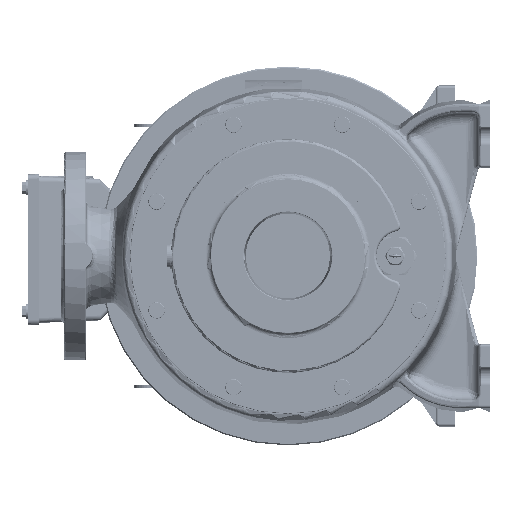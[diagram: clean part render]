
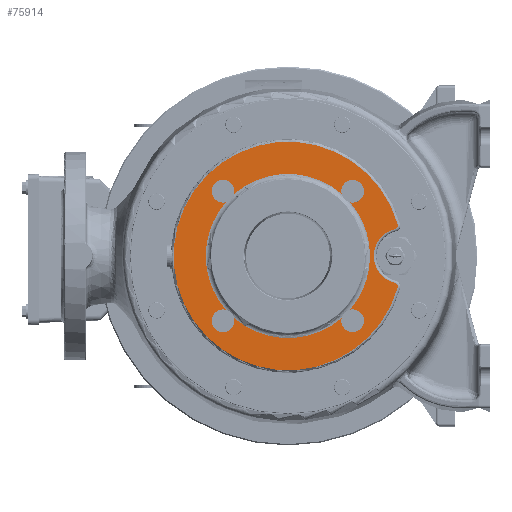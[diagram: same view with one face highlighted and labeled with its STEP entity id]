
A CAD part, left-side view. The second image highlights one B-rep face of the part: STEP entity #75914.
In plain terms, the highlighted planar face has unit normal (-1, 0, 0).
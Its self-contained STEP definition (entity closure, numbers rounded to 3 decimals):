
#64887=CARTESIAN_POINT('',(6.,0.,0.));
#64888=DIRECTION('',(1.,0.,0.));
#64889=DIRECTION('',(0.,-0.961,-0.278));
#64890=AXIS2_PLACEMENT_3D('',#64887,#64888,#64889);
#64892=CARTESIAN_POINT('',(6.,-84.063,24.285));
#64893=DIRECTION('',(1.,0.,0.));
#64894=DIRECTION('',(0.,-0.961,0.278));
#64895=AXIS2_PLACEMENT_3D('',#64892,#64893,#64894);
#64897=CARTESIAN_POINT('',(6.,-90.,0.));
#64898=DIRECTION('',(-1.,0.,0.));
#64899=DIRECTION('',(0.,0.238,0.971));
#64900=AXIS2_PLACEMENT_3D('',#64897,#64898,#64899);
#64902=CARTESIAN_POINT('',(6.,-84.063,-24.285));
#64903=DIRECTION('',(1.,0.,0.));
#64904=DIRECTION('',(0.,-0.238,0.971));
#64905=AXIS2_PLACEMENT_3D('',#64902,#64903,#64904);
#64907=CARTESIAN_POINT('',(6.,51.265,-51.265));
#64908=DIRECTION('',(1.,0.,0.));
#64909=DIRECTION('',(0.,1.,0.));
#64910=AXIS2_PLACEMENT_3D('',#64907,#64908,#64909);
#64912=CARTESIAN_POINT('',(6.,51.265,-51.265));
#64913=DIRECTION('',(1.,0.,0.));
#64914=DIRECTION('',(0.,-1.,0.));
#64915=AXIS2_PLACEMENT_3D('',#64912,#64913,#64914);
#64917=CARTESIAN_POINT('',(6.,51.265,-51.265));
#64918=DIRECTION('',(1.,0.,0.));
#64919=DIRECTION('',(0.,-0.973,0.233));
#64920=AXIS2_PLACEMENT_3D('',#64917,#64918,#64919);
#64922=CARTESIAN_POINT('',(6.,-51.265,-51.265));
#64923=DIRECTION('',(1.,0.,0.));
#64924=DIRECTION('',(0.,0.,-1.));
#64925=AXIS2_PLACEMENT_3D('',#64922,#64923,#64924);
#64927=CARTESIAN_POINT('',(6.,-51.265,-51.265));
#64928=DIRECTION('',(1.,0.,0.));
#64929=DIRECTION('',(0.,0.,1.));
#64930=AXIS2_PLACEMENT_3D('',#64927,#64928,#64929);
#64932=CARTESIAN_POINT('',(6.,-51.265,-51.265));
#64933=DIRECTION('',(1.,0.,0.));
#64934=DIRECTION('',(0.,0.233,0.973));
#64935=AXIS2_PLACEMENT_3D('',#64932,#64933,#64934);
#64937=CARTESIAN_POINT('',(6.,-51.265,51.265));
#64938=DIRECTION('',(1.,0.,0.));
#64939=DIRECTION('',(0.,-1.,0.));
#64940=AXIS2_PLACEMENT_3D('',#64937,#64938,#64939);
#64942=CARTESIAN_POINT('',(6.,-51.265,51.265));
#64943=DIRECTION('',(1.,0.,0.));
#64944=DIRECTION('',(0.,1.,0.));
#64945=AXIS2_PLACEMENT_3D('',#64942,#64943,#64944);
#64947=CARTESIAN_POINT('',(6.,-51.265,51.265));
#64948=DIRECTION('',(1.,0.,0.));
#64949=DIRECTION('',(0.,0.973,-0.233));
#64950=AXIS2_PLACEMENT_3D('',#64947,#64948,#64949);
#64952=CARTESIAN_POINT('',(6.,51.265,51.265));
#64953=DIRECTION('',(1.,0.,0.));
#64954=DIRECTION('',(0.,0.,1.));
#64955=AXIS2_PLACEMENT_3D('',#64952,#64953,#64954);
#64957=CARTESIAN_POINT('',(6.,51.265,51.265));
#64958=DIRECTION('',(1.,0.,0.));
#64959=DIRECTION('',(0.,0.,-1.));
#64960=AXIS2_PLACEMENT_3D('',#64957,#64958,#64959);
#64962=CARTESIAN_POINT('',(6.,51.265,51.265));
#64963=DIRECTION('',(1.,0.,0.));
#64964=DIRECTION('',(0.,-0.233,-0.973));
#64965=AXIS2_PLACEMENT_3D('',#64962,#64963,#64964);
#73340=CARTESIAN_POINT('',(6.,0.,0.));
#73341=DIRECTION('',(-1.,0.,0.));
#73342=DIRECTION('',(0.,-0.756,-0.654));
#73343=AXIS2_PLACEMENT_3D('',#73340,#73341,#73342);
#73345=CARTESIAN_POINT('',(6.,-42.513,-49.17));
#73360=CARTESIAN_POINT('',(6.,-49.17,-42.513));
#73362=CARTESIAN_POINT('',(6.,0.,0.));
#73363=DIRECTION('',(-1.,0.,0.));
#73364=DIRECTION('',(0.,0.654,-0.756));
#73365=AXIS2_PLACEMENT_3D('',#73362,#73363,#73364);
#73367=CARTESIAN_POINT('',(6.,49.17,-42.513));
#73382=CARTESIAN_POINT('',(6.,42.513,-49.17));
#73384=CARTESIAN_POINT('',(6.,0.,0.));
#73385=DIRECTION('',(-1.,0.,0.));
#73386=DIRECTION('',(0.,1.,0.));
#73387=AXIS2_PLACEMENT_3D('',#73384,#73385,#73386);
#73409=CARTESIAN_POINT('',(6.,0.,0.));
#73410=DIRECTION('',(1.,0.,0.));
#73411=DIRECTION('',(0.,1.,0.));
#73412=AXIS2_PLACEMENT_3D('',#73409,#73410,#73411);
#73414=CARTESIAN_POINT('',(6.,42.513,49.17));
#73429=CARTESIAN_POINT('',(6.,49.17,42.513));
#73431=CARTESIAN_POINT('',(6.,0.,0.));
#73432=DIRECTION('',(1.,0.,0.));
#73433=DIRECTION('',(0.,0.654,0.756));
#73434=AXIS2_PLACEMENT_3D('',#73431,#73432,#73433);
#73436=CARTESIAN_POINT('',(6.,-49.17,42.513));
#73451=CARTESIAN_POINT('',(6.,-42.513,49.17));
#73453=CARTESIAN_POINT('',(6.,0.,0.));
#73454=DIRECTION('',(1.,0.,0.));
#73455=DIRECTION('',(0.,-0.756,0.654));
#73456=AXIS2_PLACEMENT_3D('',#73453,#73454,#73455);
#73702=CARTESIAN_POINT('',(6.,-86.945,-25.117));
#73703=CARTESIAN_POINT('',(6.,-86.945,25.117));
#73704=VERTEX_POINT('',#73702);
#73705=VERTEX_POINT('',#73703);
#73734=CARTESIAN_POINT('',(6.,-84.775,21.371));
#73735=VERTEX_POINT('',#73734);
#73738=CARTESIAN_POINT('',(6.,-84.775,-21.371));
#73739=VERTEX_POINT('',#73738);
#74024=CARTESIAN_POINT('',(6.,42.265,-51.265));
#74025=CARTESIAN_POINT('',(6.,60.265,-51.265));
#74026=VERTEX_POINT('',#74024);
#74027=VERTEX_POINT('',#74025);
#74032=CARTESIAN_POINT('',(6.,51.265,42.265));
#74033=CARTESIAN_POINT('',(6.,51.265,60.265));
#74034=VERTEX_POINT('',#74032);
#74035=VERTEX_POINT('',#74033);
#74040=CARTESIAN_POINT('',(6.,-42.265,51.265));
#74041=CARTESIAN_POINT('',(6.,-60.265,51.265));
#74042=VERTEX_POINT('',#74040);
#74043=VERTEX_POINT('',#74041);
#74048=CARTESIAN_POINT('',(6.,-51.265,-42.265));
#74049=CARTESIAN_POINT('',(6.,-51.265,-60.265));
#74050=VERTEX_POINT('',#74048);
#74051=VERTEX_POINT('',#74049);
#74202=VERTEX_POINT('',#73414);
#74203=VERTEX_POINT('',#73429);
#74204=VERTEX_POINT('',#73436);
#74205=VERTEX_POINT('',#73451);
#74206=VERTEX_POINT('',#73345);
#74207=VERTEX_POINT('',#73360);
#74208=VERTEX_POINT('',#73367);
#74209=VERTEX_POINT('',#73382);
#74210=CARTESIAN_POINT('',(6.,65.,0.));
#74211=VERTEX_POINT('',#74210);
#74212=CARTESIAN_POINT('',(6.,-65.,0.));
#74213=VERTEX_POINT('',#74212);
#75863=CARTESIAN_POINT('',(6.,0.,0.));
#75864=DIRECTION('',(1.,0.,0.));
#75865=DIRECTION('',(0.,-1.,0.));
#75866=AXIS2_PLACEMENT_3D('',#75863,#75864,#75865);
#75867=PLANE('',#75866);
#75868=ORIENTED_EDGE('',*,*,#75541,.T.);
#75870=ORIENTED_EDGE('',*,*,#75869,.T.);
#75872=ORIENTED_EDGE('',*,*,#75871,.T.);
#75873=ORIENTED_EDGE('',*,*,#75855,.T.);
#75874=EDGE_LOOP('',(#75868,#75870,#75872,#75873));
#75875=FACE_OUTER_BOUND('',#75874,.F.);
#75877=ORIENTED_EDGE('',*,*,#75876,.F.);
#75879=ORIENTED_EDGE('',*,*,#75878,.F.);
#75881=ORIENTED_EDGE('',*,*,#75880,.F.);
#75883=ORIENTED_EDGE('',*,*,#75882,.T.);
#75885=ORIENTED_EDGE('',*,*,#75884,.F.);
#75887=ORIENTED_EDGE('',*,*,#75886,.F.);
#75889=ORIENTED_EDGE('',*,*,#75888,.F.);
#75891=ORIENTED_EDGE('',*,*,#75890,.T.);
#75893=ORIENTED_EDGE('',*,*,#75892,.F.);
#75895=ORIENTED_EDGE('',*,*,#75894,.F.);
#75897=ORIENTED_EDGE('',*,*,#75896,.F.);
#75899=ORIENTED_EDGE('',*,*,#75898,.F.);
#75901=ORIENTED_EDGE('',*,*,#75900,.F.);
#75903=ORIENTED_EDGE('',*,*,#75902,.F.);
#75905=ORIENTED_EDGE('',*,*,#75904,.F.);
#75907=ORIENTED_EDGE('',*,*,#75906,.F.);
#75909=ORIENTED_EDGE('',*,*,#75908,.F.);
#75911=ORIENTED_EDGE('',*,*,#75910,.T.);
#75912=EDGE_LOOP('',(#75877,#75879,#75881,#75883,#75885,#75887,#75889,#75891,
#75893,#75895,#75897,#75899,#75901,#75903,#75905,#75907,#75909,#75911));
#75913=FACE_BOUND('',#75912,.F.);
#75914=ADVANCED_FACE('',(#75875,#75913),#75867,.F.);
#64891=CIRCLE('',#64890,90.5);
#64896=CIRCLE('',#64895,3.);
#64901=CIRCLE('',#64900,22.);
#64906=CIRCLE('',#64905,3.);
#64911=CIRCLE('',#64910,9.);
#64916=CIRCLE('',#64915,9.);
#64921=CIRCLE('',#64920,9.);
#64926=CIRCLE('',#64925,9.);
#64931=CIRCLE('',#64930,9.);
#64936=CIRCLE('',#64935,9.);
#64941=CIRCLE('',#64940,9.);
#64946=CIRCLE('',#64945,9.);
#64951=CIRCLE('',#64950,9.);
#64956=CIRCLE('',#64955,9.);
#64961=CIRCLE('',#64960,9.);
#64966=CIRCLE('',#64965,9.);
#73344=CIRCLE('',#73343,65.);
#73366=CIRCLE('',#73365,65.);
#73388=CIRCLE('',#73387,65.);
#73413=CIRCLE('',#73412,65.);
#73435=CIRCLE('',#73434,65.);
#73457=CIRCLE('',#73456,65.);
#75541=EDGE_CURVE('',#73704,#73705,#64891,.T.);
#75855=EDGE_CURVE('',#73739,#73704,#64906,.T.);
#75869=EDGE_CURVE('',#73705,#73735,#64896,.T.);
#75871=EDGE_CURVE('',#73735,#73739,#64901,.T.);
#75876=EDGE_CURVE('',#74027,#74208,#64911,.T.);
#75878=EDGE_CURVE('',#74026,#74027,#64916,.T.);
#75880=EDGE_CURVE('',#74209,#74026,#64921,.T.);
#75882=EDGE_CURVE('',#74209,#74206,#73366,.T.);
#75884=EDGE_CURVE('',#74051,#74206,#64926,.T.);
#75886=EDGE_CURVE('',#74050,#74051,#64931,.T.);
#75888=EDGE_CURVE('',#74207,#74050,#64936,.T.);
#75890=EDGE_CURVE('',#74207,#74213,#73344,.T.);
#75892=EDGE_CURVE('',#74204,#74213,#73457,.T.);
#75894=EDGE_CURVE('',#74043,#74204,#64941,.T.);
#75896=EDGE_CURVE('',#74042,#74043,#64946,.T.);
#75898=EDGE_CURVE('',#74205,#74042,#64951,.T.);
#75900=EDGE_CURVE('',#74202,#74205,#73435,.T.);
#75902=EDGE_CURVE('',#74035,#74202,#64956,.T.);
#75904=EDGE_CURVE('',#74034,#74035,#64961,.T.);
#75906=EDGE_CURVE('',#74203,#74034,#64966,.T.);
#75908=EDGE_CURVE('',#74211,#74203,#73413,.T.);
#75910=EDGE_CURVE('',#74211,#74208,#73388,.T.);
